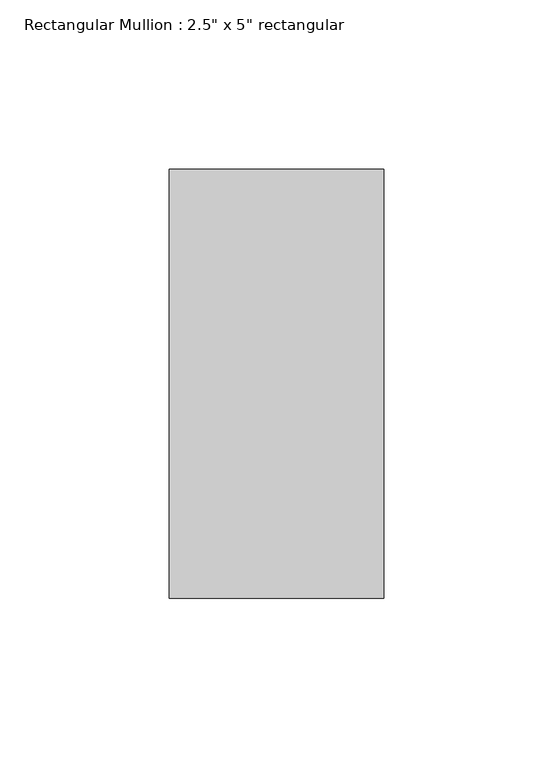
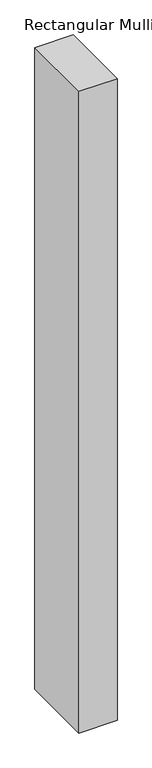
"""IFC4 building model written with IfcOpenShell, lengths in millimetres: member geometry."""

import ifcopenshell
import ifcopenshell.guid

model = None  # the IFC model being written
_history = None  # IfcOwnerHistory: only IFC2X3 demands one
_inside = {}  # id of a spatial element -> (the spatial element, [elements in it])
_under = {}  # id of a project, library or spatial element -> (it, [spatial elements below it])
_declared = {}  # id of a project -> (the project, [libraries it declares])
_typed = {}  # id of a type object -> (the type object, [elements of that type])
_made_of = {}  # id of a material, layer set ... -> (it, [elements and type objects made of it])


def new_model(schema):
    """Start an empty IFC model of exactly this schema.

    Asked for "IFC4X3", IfcOpenShell would pick the latest addendum, in which some entities
    have other attributes; the version numbers below select the first issue.
    IFC2X3 requires an IfcOwnerHistory on every rooted entity: one is made here for all.
    """
    global model, _history
    if schema == "IFC4X3":
        model = ifcopenshell.file(schema_version=(4, 3, 0, 0))
    else:
        model = ifcopenshell.file(schema=schema)
    _inside.clear()
    _under.clear()
    _declared.clear()
    _typed.clear()
    _made_of.clear()
    _history = None
    if model.schema == "IFC2X3":
        org = make("IfcOrganization", Name="unknown")
        user = make(
            "IfcPersonAndOrganization",
            ThePerson=make("IfcPerson", FamilyName="unknown"),
            TheOrganization=org,
        )
        app = make(
            "IfcApplication",
            ApplicationDeveloper=org,
            Version="unknown",
            ApplicationFullName="unknown",
            ApplicationIdentifier="unknown",
        )
        _history = make(
            "IfcOwnerHistory",
            OwningUser=user,
            OwningApplication=app,
            ChangeAction="ADDED",
            CreationDate=0,
        )
    return model


def make(cls, **values):
    """One entity of the class cls with the attributes given. An attribute that is None is left unset."""
    return model.create_entity(
        cls, **{name: value for name, value in values.items() if value is not None}
    )


def rooted(cls, **values):
    """An entity with a GlobalId (a new one), such as an element, a storey or a relation."""
    return make(cls, GlobalId=ifcopenshell.guid.new(), OwnerHistory=_history, **values)


def si_unit(unit_type, name, prefix=None):
    """IfcSIUnit, for example si_unit("LENGTHUNIT", "METRE", prefix="MILLI")."""
    return make("IfcSIUnit", UnitType=unit_type, Prefix=prefix, Name=name)


def assignment(units):
    """IfcUnitAssignment: the units of a project."""
    return None if units is None else make("IfcUnitAssignment", Units=units)


def point(xyz):
    """IfcCartesianPoint."""
    return None if xyz is None else make("IfcCartesianPoint", Coordinates=xyz)


def direction(xyz):
    """IfcDirection."""
    return None if xyz is None else make("IfcDirection", DirectionRatios=xyz)


def frame(location, z_axis=None, x_axis=None):
    """IfcAxis2Placement3D, a coordinate frame: its origin and axes. An axis left out is left unset."""
    return make(
        "IfcAxis2Placement3D",
        Location=point(location),
        Axis=direction(z_axis),
        RefDirection=direction(x_axis),
    )


def origin():
    """The frame at (0, 0, 0) with its axes left unset."""
    return frame((0.0, 0.0, 0.0))


def place(relative_to, where):
    """IfcLocalPlacement: puts the frame where relative to a parent placement (None: the world)."""
    return make(
        "IfcLocalPlacement", PlacementRelTo=relative_to, RelativePlacement=where
    )


def context(
    kind, dimensions, precision=None, world=None, true_north=None, identifier=None
):
    """IfcGeometricRepresentationContext, for example the 3D "Model" context."""
    return make(
        "IfcGeometricRepresentationContext",
        ContextIdentifier=identifier,
        ContextType=kind,
        CoordinateSpaceDimension=dimensions,
        Precision=precision,
        WorldCoordinateSystem=world,
        TrueNorth=true_north,
    )


def project(units=None, contexts=None):
    """IfcProject with its units and contexts."""
    return rooted(
        "IfcProject",
        Name="project",
        RepresentationContexts=contexts,
        UnitsInContext=assignment(units),
    )


def spatial(cls, under=None, at=None, **own):
    """A site, building, storey or space (cls), placed at a placement, below another one or the project."""
    s = rooted(cls, ObjectPlacement=at, **own)
    if under is not None:
        _under.setdefault(under.id(), (under, []))[1].append(s)
    return s


def polyline(points):
    """IfcPolyline through the points."""
    return make("IfcPolyline", Points=[point(p) for p in points])


def outline(outer, holes=None, kind="AREA"):
    """IfcArbitraryClosedProfileDef: a profile drawn as a closed curve; with holes, ...WithVoids."""
    if holes is None:
        return make("IfcArbitraryClosedProfileDef", ProfileType=kind, OuterCurve=outer)
    return make(
        "IfcArbitraryProfileDefWithVoids",
        ProfileType=kind,
        OuterCurve=outer,
        InnerCurves=holes,
    )


def extrude(swept, where, along, depth):
    """IfcExtrudedAreaSolid: the profile swept, set in the frame where, extruded along a direction by depth."""
    return make(
        "IfcExtrudedAreaSolid",
        SweptArea=swept,
        Position=where,
        ExtrudedDirection=direction(along),
        Depth=depth,
    )


def shape(context_of_items, identifier, shape_type, items):
    """IfcShapeRepresentation: the items that make up one representation, for example the "Body"."""
    return make(
        "IfcShapeRepresentation",
        ContextOfItems=context_of_items,
        RepresentationIdentifier=identifier,
        RepresentationType=shape_type,
        Items=items,
    )


def source(mapping_origin, context_of_items, identifier, shape_type, items):
    """IfcRepresentationMap: a shape defined once, which mapped items show again and again."""
    return make(
        "IfcRepresentationMap",
        MappingOrigin=mapping_origin,
        MappedRepresentation=shape(context_of_items, identifier, shape_type, items),
    )


def transform(
    local_origin,
    x_axis=None,
    y_axis=None,
    z_axis=None,
    scale=None,
    scale2=None,
    scale3=None,
    uniform=True,
):
    """IfcCartesianTransformationOperator3D, or its non-uniform kind. x_axis, y_axis, z_axis: its Axis1, 2, 3."""
    if uniform:
        return make(
            "IfcCartesianTransformationOperator3D",
            Axis1=direction(x_axis),
            Axis2=direction(y_axis),
            LocalOrigin=point(local_origin),
            Scale=scale,
            Axis3=direction(z_axis),
        )
    return make(
        "IfcCartesianTransformationOperator3DnonUniform",
        Axis1=direction(x_axis),
        Axis2=direction(y_axis),
        LocalOrigin=point(local_origin),
        Scale=scale,
        Axis3=direction(z_axis),
        Scale2=scale2,
        Scale3=scale3,
    )


def mapped(mapping_source, mapping_target):
    """IfcMappedItem: shows the shape of a source again, moved by a transform."""
    return make(
        "IfcMappedItem", MappingSource=mapping_source, MappingTarget=mapping_target
    )


def made_of(thing, what):
    """Note that an element or type object is made of a material, layer set ...; save() writes the relation."""
    if what is not None:
        _made_of.setdefault(what.id(), (what, []))[1].append(thing)
    return thing


def element(
    cls,
    number,
    at=None,
    inside=None,
    cuts=None,
    type_object=None,
    material=None,
    context=None,
    identifier="Body",
    shape_type=None,
    held_by="IfcProductDefinitionShape",
    body=None,
    shapes=None,
    **own,
):
    """One element of the class cls, such as IfcWall. Its Tag is "e" and its number.

    at: its placement. inside: the storey or other place that contains it. cuts: it is an
    opening in that element (IfcRelVoidsElement). A single representation is given by context,
    identifier, shape_type and body (its items); several are given by shapes. held_by: the class
    of the entity that holds the representations. save() writes the other relations.
    """
    e = rooted(cls, Tag="e%d" % number, ObjectPlacement=at, **own)
    if body is not None:
        shapes = [shape(context, identifier, shape_type, body)]
    if shapes is not None:
        e.Representation = make(held_by, Representations=shapes)
    if inside is not None:
        _inside.setdefault(inside.id(), (inside, []))[1].append(e)
    if cuts is not None:
        rooted(
            "IfcRelVoidsElement", RelatingBuildingElement=cuts, RelatedOpeningElement=e
        )
    if type_object is not None:
        _typed.setdefault(type_object.id(), (type_object, []))[1].append(e)
    return made_of(e, material)


def aggregate(whole, parts):
    """IfcRelAggregates: a whole, such as a stair, and the parts it consists of."""
    return rooted("IfcRelAggregates", RelatingObject=whole, RelatedObjects=parts)


def save(model, path):
    """Write the relations noted so far, then the file.

    IfcRelAggregates (storeys below a building ...), IfcRelContainedInSpatialStructure (elements
    in a storey), IfcRelDefinesByType, IfcRelAssociatesMaterial and IfcRelDeclares: one each for
    every whole, place, type object, material and project.
    """
    for whole, parts in _under.values():
        aggregate(whole, parts)
    for where, things in _inside.values():
        rooted(
            "IfcRelContainedInSpatialStructure",
            RelatedElements=things,
            RelatingStructure=where,
        )
    for kind, things in _typed.values():
        rooted("IfcRelDefinesByType", RelatedObjects=things, RelatingType=kind)
    for what, things in _made_of.values():
        rooted("IfcRelAssociatesMaterial", RelatedObjects=things, RelatingMaterial=what)
    for by, libraries in _declared.values():
        rooted("IfcRelDeclares", RelatingContext=by, RelatedDefinitions=libraries)
    model.write(path)


def member_a08f6adc(model_context):
    return source(origin(), model_context, "Body", "SweptSolid", [
        extrude(outline(polyline([(0.0, 63.5), (0.0, -63.5), (-63.5, -63.5), (-63.5, 63.5), (0.0, 63.5)])), frame((0.0, 0.0, -1130.3), z_axis=(0.0, 0.0, 1.0), x_axis=(1.0, 0.0, 0.0)), (0.0, 0.0, 1.0), 1130.3),
    ])


if __name__ == "__main__":
    model = new_model("IFC4")
    model_context = context("Model", 3, world=origin())
    ifc_project = project(units=[si_unit("LENGTHUNIT", "METRE", prefix="MILLI")], contexts=[model_context])
    site = spatial("IfcSite", under=ifc_project)
    building = spatial("IfcBuilding", under=site)
    placement = place(None, origin())
    member_shape = member_a08f6adc(model_context)
    element("IfcMember", 1, ObjectType="Rectangular Mullion : 2.5\" x 5\" rectangular", at=placement, inside=building, context=model_context, shape_type="MappedRepresentation", body=[
        mapped(member_shape, transform((0.0, 0.0, 0.0), x_axis=(1.0, 0.0, 0.0), y_axis=(0.0, 1.0, 0.0), z_axis=(0.0, 0.0, 1.0))),
    ])
    save(model, "model.ifc")
